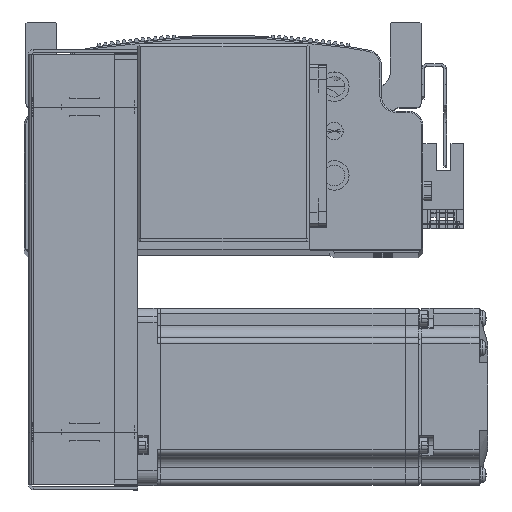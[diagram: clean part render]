
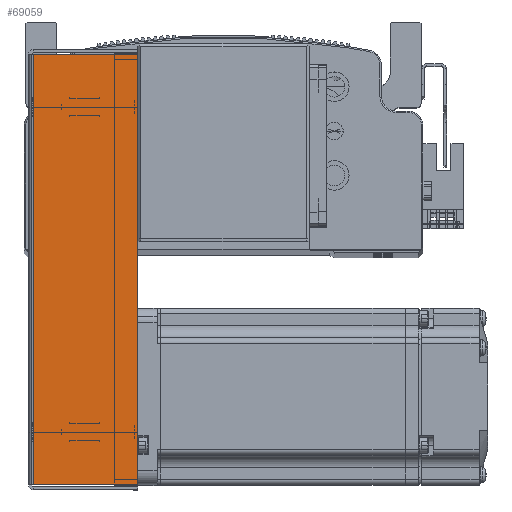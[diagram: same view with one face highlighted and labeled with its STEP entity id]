
A CAD part, top view. The second image highlights one B-rep face of the part: STEP entity #69059.
In plain terms, the highlighted planar face has unit normal (0, 0, 1) as drawn and (0, 0, -1) by its records, which use the part's own axes.
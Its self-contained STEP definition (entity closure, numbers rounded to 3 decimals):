
#7551 = EDGE_CURVE ( 'NONE', #65130, #65180, #79147, .T. ) ;
#7591 = EDGE_CURVE ( 'NONE', #65122, #65114, #79170, .T. ) ;
#7610 = EDGE_CURVE ( 'NONE', #65180, #65114, #79250, .T. ) ;
#7631 = EDGE_CURVE ( 'NONE', #65130, #65122, #79227, .T. ) ;
#31501 = ORIENTED_EDGE ( 'NONE', *, *, #7631, .F. ) ;
#31525 = ORIENTED_EDGE ( 'NONE', *, *, #7551, .T. ) ;
#31542 = ORIENTED_EDGE ( 'NONE', *, *, #7610, .T. ) ;
#31548 = ORIENTED_EDGE ( 'NONE', *, *, #7591, .F. ) ;
#36936 = CARTESIAN_POINT ( 'NONE',  ( 74.5, 0.737, -34.5 ) ) ;
#36987 = DIRECTION ( 'NONE',  ( 1., 0., 0. ) ) ;
#39823 = CARTESIAN_POINT ( 'NONE',  ( 0., 36., -34.5 ) ) ;
#39842 = DIRECTION ( 'NONE',  ( 1., 0., 0. ) ) ;
#39850 = CARTESIAN_POINT ( 'NONE',  ( 72.793, 0., -34.5 ) ) ;
#39879 = DIRECTION ( 'NONE',  ( 0., 1., 0. ) ) ;
#42547 = CARTESIAN_POINT ( 'NONE',  ( -72.793, 0., -34.5 ) ) ;
#42570 = DIRECTION ( 'NONE',  ( 0., 1., 0. ) ) ;
#48427 = EDGE_LOOP ( 'NONE', ( #31501, #31525, #31542, #31548 ) ) ;
#60961 = AXIS2_PLACEMENT_3D ( 'NONE', #74246, #74231, #74258 ) ;
#65114 = VERTEX_POINT ( 'NONE', #83214 ) ;
#65122 = VERTEX_POINT ( 'NONE', #83206 ) ;
#65130 = VERTEX_POINT ( 'NONE', #83231 ) ;
#65180 = VERTEX_POINT ( 'NONE', #83274 ) ;
#69059 = ADVANCED_FACE ( 'NONE', ( #75887 ), #74243, .F. ) ;
#74231 = DIRECTION ( 'NONE',  ( 0., 0., 1. ) ) ;
#74243 = PLANE ( 'NONE',  #60961 ) ;
#74246 = CARTESIAN_POINT ( 'NONE',  ( 0., 0., -34.5 ) ) ;
#74258 = DIRECTION ( 'NONE',  ( 0., -1., 0. ) ) ;
#75887 = FACE_OUTER_BOUND ( 'NONE', #48427, .T. ) ;
#79147 = LINE ( 'NONE', #42547, #79197 ) ;
#79170 = LINE ( 'NONE', #39850, #79179 ) ;
#79179 = VECTOR ( 'NONE', #39879, 1000. ) ;
#79197 = VECTOR ( 'NONE', #42570, 1000. ) ;
#79202 = VECTOR ( 'NONE', #36987, 1000. ) ;
#79227 = LINE ( 'NONE', #36936, #79202 ) ;
#79250 = LINE ( 'NONE', #39823, #79253 ) ;
#79253 = VECTOR ( 'NONE', #39842, 1000. ) ;
#83206 = CARTESIAN_POINT ( 'NONE',  ( 72.793, 0.737, -34.5 ) ) ;
#83214 = CARTESIAN_POINT ( 'NONE',  ( 72.793, 36., -34.5 ) ) ;
#83231 = CARTESIAN_POINT ( 'NONE',  ( -72.793, 0.737, -34.5 ) ) ;
#83274 = CARTESIAN_POINT ( 'NONE',  ( -72.793, 36., -34.5 ) ) ;
